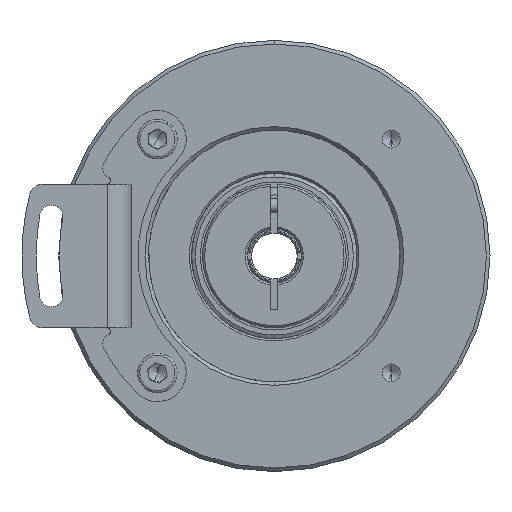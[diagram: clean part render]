
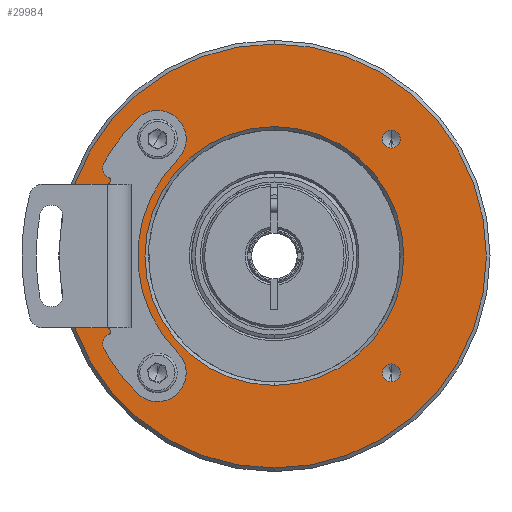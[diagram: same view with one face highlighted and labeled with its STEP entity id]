
A CAD part, front view. The second image highlights one B-rep face of the part: STEP entity #29984.
In plain terms, the highlighted planar face has unit normal (0, -1, 0).
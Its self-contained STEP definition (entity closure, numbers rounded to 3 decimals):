
#828 = ORIENTED_EDGE ( 'NONE', *, *, #15311, .T. ) ;
#1443 = EDGE_CURVE ( 'NONE', #17340, #14786, #13499, .T. ) ;
#1515 = DIRECTION ( 'NONE',  ( 0., 0., -1. ) ) ;
#1616 = ORIENTED_EDGE ( 'NONE', *, *, #22736, .F. ) ;
#1724 = CARTESIAN_POINT ( 'NONE',  ( 16.263, 0., 16.263 ) ) ;
#2025 = EDGE_LOOP ( 'NONE', ( #23011, #13352 ) ) ;
#2301 = DIRECTION ( 'NONE',  ( 0., -1., 0. ) ) ;
#2776 = EDGE_LOOP ( 'NONE', ( #28740, #30079 ) ) ;
#2835 = AXIS2_PLACEMENT_3D ( 'NONE', #14634, #22286, #29767 ) ;
#3370 = EDGE_CURVE ( 'NONE', #7967, #20051, #18725, .T. ) ;
#4498 = CARTESIAN_POINT ( 'NONE',  ( 0., 0., 0. ) ) ;
#4545 = DIRECTION ( 'NONE',  ( 0., 0., -1. ) ) ;
#4652 = ORIENTED_EDGE ( 'NONE', *, *, #3370, .F. ) ;
#5022 = DIRECTION ( 'NONE',  ( 0., 0., -1. ) ) ;
#5735 = AXIS2_PLACEMENT_3D ( 'NONE', #8699, #26019, #11204 ) ;
#6055 = CARTESIAN_POINT ( 'NONE',  ( 16.263, 0., 16.263 ) ) ;
#6208 = EDGE_LOOP ( 'NONE', ( #828, #29757 ) ) ;
#6596 = ORIENTED_EDGE ( 'NONE', *, *, #18746, .F. ) ;
#6671 = DIRECTION ( 'NONE',  ( 0., -1., 0. ) ) ;
#6855 = FACE_BOUND ( 'NONE', #25190, .T. ) ;
#7339 = CARTESIAN_POINT ( 'NONE',  ( 0., 0., 0. ) ) ;
#7384 = CARTESIAN_POINT ( 'NONE',  ( 16.263, 0., -17.513 ) ) ;
#7945 = AXIS2_PLACEMENT_3D ( 'NONE', #30743, #8541, #23261 ) ;
#7967 = VERTEX_POINT ( 'NONE', #30595 ) ;
#8051 = CARTESIAN_POINT ( 'NONE',  ( -16.263, 0., 16.263 ) ) ;
#8506 = CARTESIAN_POINT ( 'NONE',  ( -16.263, 0., -16.263 ) ) ;
#8541 = DIRECTION ( 'NONE',  ( 0., -1., 0. ) ) ;
#8699 = CARTESIAN_POINT ( 'NONE',  ( 0., 0., 0. ) ) ;
#8833 = CARTESIAN_POINT ( 'NONE',  ( 16.263, 0., 17.513 ) ) ;
#9008 = CIRCLE ( 'NONE', #18719, 1.25 ) ;
#9585 = CIRCLE ( 'NONE', #7945, 1.25 ) ;
#10032 = FACE_BOUND ( 'NONE', #24143, .T. ) ;
#10168 = DIRECTION ( 'NONE',  ( 0., 0., -1. ) ) ;
#10475 = DIRECTION ( 'NONE',  ( 0., -1., 0. ) ) ;
#10745 = DIRECTION ( 'NONE',  ( 0., 0., -1. ) ) ;
#11204 = DIRECTION ( 'NONE',  ( 0., 0., -1. ) ) ;
#11443 = EDGE_CURVE ( 'NONE', #27068, #31512, #22518, .T. ) ;
#11501 = ORIENTED_EDGE ( 'NONE', *, *, #13847, .F. ) ;
#11620 = VERTEX_POINT ( 'NONE', #18730 ) ;
#11661 = CARTESIAN_POINT ( 'NONE',  ( 16.263, 0., 15.013 ) ) ;
#11757 = AXIS2_PLACEMENT_3D ( 'NONE', #1724, #6671, #1515 ) ;
#11821 = EDGE_CURVE ( 'NONE', #15627, #17439, #28014, .T. ) ;
#12106 = CARTESIAN_POINT ( 'NONE',  ( 16.263, 0., -15.013 ) ) ;
#12498 = CARTESIAN_POINT ( 'NONE',  ( 0., 0., 0. ) ) ;
#12774 = AXIS2_PLACEMENT_3D ( 'NONE', #8506, #15762, #18345 ) ;
#13099 = CIRCLE ( 'NONE', #26140, 18. ) ;
#13352 = ORIENTED_EDGE ( 'NONE', *, *, #29108, .T. ) ;
#13465 = CARTESIAN_POINT ( 'NONE',  ( -16.263, 0., -15.013 ) ) ;
#13499 = CIRCLE ( 'NONE', #11757, 1.25 ) ;
#13510 = FACE_BOUND ( 'NONE', #2776, .T. ) ;
#13847 = EDGE_CURVE ( 'NONE', #31512, #27068, #18865, .T. ) ;
#14114 = DIRECTION ( 'NONE',  ( 0., -1., 0. ) ) ;
#14376 = AXIS2_PLACEMENT_3D ( 'NONE', #12498, #27399, #15425 ) ;
#14634 = CARTESIAN_POINT ( 'NONE',  ( 0., 0., 0. ) ) ;
#14786 = VERTEX_POINT ( 'NONE', #8833 ) ;
#15311 = EDGE_CURVE ( 'NONE', #11620, #18673, #24416, .T. ) ;
#15425 = DIRECTION ( 'NONE',  ( 0., 0., -1. ) ) ;
#15549 = AXIS2_PLACEMENT_3D ( 'NONE', #8051, #10475, #30382 ) ;
#15627 = VERTEX_POINT ( 'NONE', #12106 ) ;
#15762 = DIRECTION ( 'NONE',  ( 0., -1., 0. ) ) ;
#16574 = EDGE_CURVE ( 'NONE', #18673, #11620, #13099, .T. ) ;
#17340 = VERTEX_POINT ( 'NONE', #11661 ) ;
#17414 = AXIS2_PLACEMENT_3D ( 'NONE', #25000, #2301, #10168 ) ;
#17439 = VERTEX_POINT ( 'NONE', #7384 ) ;
#17709 = FACE_OUTER_BOUND ( 'NONE', #2025, .T. ) ;
#17949 = CARTESIAN_POINT ( 'NONE',  ( 0., 0., 18. ) ) ;
#18345 = DIRECTION ( 'NONE',  ( 0., 0., -1. ) ) ;
#18673 = VERTEX_POINT ( 'NONE', #17949 ) ;
#18719 = AXIS2_PLACEMENT_3D ( 'NONE', #6055, #25663, #10745 ) ;
#18725 = CIRCLE ( 'NONE', #28647, 1.25 ) ;
#18730 = CARTESIAN_POINT ( 'NONE',  ( 0., 0., -18. ) ) ;
#18746 = EDGE_CURVE ( 'NONE', #17439, #15627, #9585, .T. ) ;
#18865 = CIRCLE ( 'NONE', #12774, 1.25 ) ;
#19236 = VERTEX_POINT ( 'NONE', #28922 ) ;
#20051 = VERTEX_POINT ( 'NONE', #23026 ) ;
#20144 = AXIS2_PLACEMENT_3D ( 'NONE', #7339, #21961, #29448 ) ;
#20278 = EDGE_LOOP ( 'NONE', ( #6596, #29744 ) ) ;
#20447 = CARTESIAN_POINT ( 'NONE',  ( -16.263, 0., -17.513 ) ) ;
#20473 = VERTEX_POINT ( 'NONE', #27093 ) ;
#21961 = DIRECTION ( 'NONE',  ( 0., -1., 0. ) ) ;
#22286 = DIRECTION ( 'NONE',  ( 0., -1., 0. ) ) ;
#22339 = DIRECTION ( 'NONE',  ( 0., 1., 0. ) ) ;
#22518 = CIRCLE ( 'NONE', #17414, 1.25 ) ;
#22736 = EDGE_CURVE ( 'NONE', #20051, #7967, #30066, .T. ) ;
#23011 = ORIENTED_EDGE ( 'NONE', *, *, #29532, .T. ) ;
#23026 = CARTESIAN_POINT ( 'NONE',  ( -16.263, 0., 15.013 ) ) ;
#23261 = DIRECTION ( 'NONE',  ( 0., 0., -1. ) ) ;
#24143 = EDGE_LOOP ( 'NONE', ( #1616, #4652 ) ) ;
#24298 = EDGE_CURVE ( 'NONE', #14786, #17340, #9008, .T. ) ;
#24300 = AXIS2_PLACEMENT_3D ( 'NONE', #31947, #24467, #4545 ) ;
#24311 = FACE_BOUND ( 'NONE', #6208, .T. ) ;
#24416 = CIRCLE ( 'NONE', #5735, 18. ) ;
#24467 = DIRECTION ( 'NONE',  ( 0., -1., 0. ) ) ;
#24687 = PLANE ( 'NONE',  #2835 ) ;
#25000 = CARTESIAN_POINT ( 'NONE',  ( -16.263, 0., -16.263 ) ) ;
#25190 = EDGE_LOOP ( 'NONE', ( #28604, #11501 ) ) ;
#25663 = DIRECTION ( 'NONE',  ( 0., -1., 0. ) ) ;
#25874 = CIRCLE ( 'NONE', #14376, 29.5 ) ;
#26019 = DIRECTION ( 'NONE',  ( 0., 1., 0. ) ) ;
#26140 = AXIS2_PLACEMENT_3D ( 'NONE', #4498, #22339, #5022 ) ;
#27068 = VERTEX_POINT ( 'NONE', #20447 ) ;
#27093 = CARTESIAN_POINT ( 'NONE',  ( 0., 0., -29.5 ) ) ;
#27399 = DIRECTION ( 'NONE',  ( 0., -1., 0. ) ) ;
#28014 = CIRCLE ( 'NONE', #24300, 1.25 ) ;
#28604 = ORIENTED_EDGE ( 'NONE', *, *, #11443, .F. ) ;
#28647 = AXIS2_PLACEMENT_3D ( 'NONE', #31637, #14114, #31446 ) ;
#28740 = ORIENTED_EDGE ( 'NONE', *, *, #1443, .F. ) ;
#28922 = CARTESIAN_POINT ( 'NONE',  ( 0., 0., 29.5 ) ) ;
#29108 = EDGE_CURVE ( 'NONE', #20473, #19236, #32134, .T. ) ;
#29448 = DIRECTION ( 'NONE',  ( 0., 0., -1. ) ) ;
#29532 = EDGE_CURVE ( 'NONE', #19236, #20473, #25874, .T. ) ;
#29744 = ORIENTED_EDGE ( 'NONE', *, *, #11821, .F. ) ;
#29757 = ORIENTED_EDGE ( 'NONE', *, *, #16574, .T. ) ;
#29767 = DIRECTION ( 'NONE',  ( 0., 0., -1. ) ) ;
#29984 = ADVANCED_FACE ( 'NONE', ( #24311, #10032, #13510, #6855, #31677, #17709 ), #24687, .T. ) ;
#30066 = CIRCLE ( 'NONE', #15549, 1.25 ) ;
#30079 = ORIENTED_EDGE ( 'NONE', *, *, #24298, .F. ) ;
#30382 = DIRECTION ( 'NONE',  ( 0., 0., -1. ) ) ;
#30595 = CARTESIAN_POINT ( 'NONE',  ( -16.263, 0., 17.513 ) ) ;
#30743 = CARTESIAN_POINT ( 'NONE',  ( 16.263, 0., -16.263 ) ) ;
#31446 = DIRECTION ( 'NONE',  ( 0., 0., -1. ) ) ;
#31512 = VERTEX_POINT ( 'NONE', #13465 ) ;
#31637 = CARTESIAN_POINT ( 'NONE',  ( -16.263, 0., 16.263 ) ) ;
#31677 = FACE_BOUND ( 'NONE', #20278, .T. ) ;
#31947 = CARTESIAN_POINT ( 'NONE',  ( 16.263, 0., -16.263 ) ) ;
#32134 = CIRCLE ( 'NONE', #20144, 29.5 ) ;
